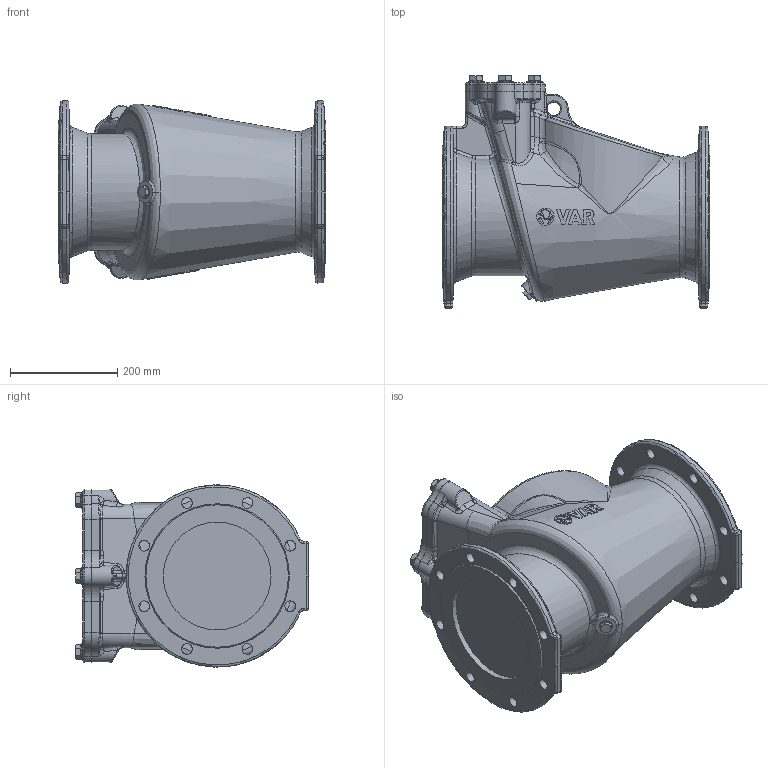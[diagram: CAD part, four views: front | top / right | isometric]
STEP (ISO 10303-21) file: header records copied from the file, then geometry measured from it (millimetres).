
FILE_DESCRIPTION(('STEP AP242'), '1');
FILE_NAME('VAR RETO-STOP 吾疣蝽 觌囡囗 DN 200 PN 10', '2026-06-28T08:25:30', (' '), (' '), 'C3D Converter', 'C3D Toolkit', '');
FILE_SCHEMA(('AP242_MANAGED_MODEL_BASED_3D_ENGINEERING_MIM_LF { 1 0 10303 442 1 1 4 }'));
Length unit declared in the file: millimetre
Products named in the file (1): Admi10D408D9ferl
Bounding box: 500 x 434 x 339.98 mm (x, y, z)
Volume: 33050870.9 mm3; surface area: 883208.6 mm2
Topology: 1 solids, 6 shells, 808 faces, 1992 edges, 1194 vertices
Faces by surface type: plane 203, bspline 198, extrusion 134, cylinder 134, cone 82, torus 39, sphere 18
Full cylindrical faces by diameter (mm): 11.053 x1, 12.5 x1, 15.053 x4, 17 x4, 17.2 x1, 20 x16, 22 x5, 24 x1, 30 x4, 32.521 x1, 201 x2
Entity records: 79752 total; most frequent: CARTESIAN_POINT 57582, ORIENTED_EDGE 3746, DIRECTION 2354, EDGE_CURVE 1873, VERTEX_POINT 1175, B_SPLINE_CURVE_WITH_KNOTS 1114, EDGE_LOOP 947, AXIS2_PLACEMENT_3D 866
